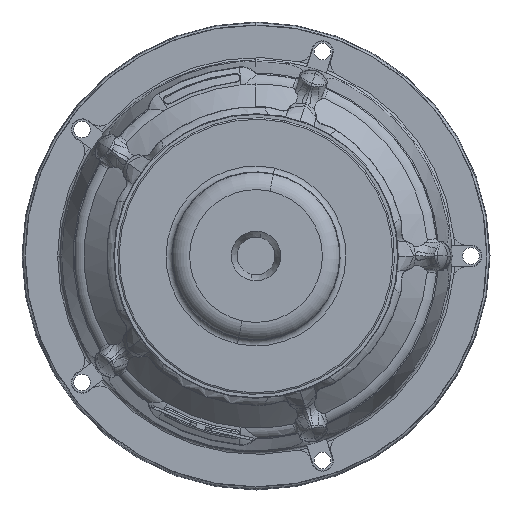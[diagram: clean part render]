
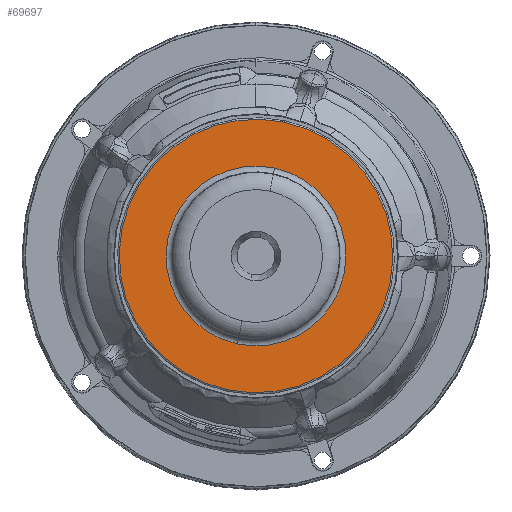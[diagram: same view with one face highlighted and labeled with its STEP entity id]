
A CAD part, front view. The second image highlights one B-rep face of the part: STEP entity #69697.
In plain terms, the highlighted planar face has unit normal (0, -1, 0).
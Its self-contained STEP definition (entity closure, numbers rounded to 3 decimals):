
#1073 = CIRCLE ( 'NONE', #62477, 28.425 ) ;
#1999 = AXIS2_PLACEMENT_3D ( 'NONE', #56514, #42863, #36889 ) ;
#2638 = CIRCLE ( 'NONE', #29986, 28.425 ) ;
#2693 = AXIS2_PLACEMENT_3D ( 'NONE', #58828, #52429, #52010 ) ;
#7824 = ORIENTED_EDGE ( 'NONE', *, *, #24896, .F. ) ;
#8827 = VERTEX_POINT ( 'NONE', #66209 ) ;
#13660 = CIRCLE ( 'NONE', #2693, 43.25 ) ;
#16712 = VERTEX_POINT ( 'NONE', #35196 ) ;
#22405 = CARTESIAN_POINT ( 'NONE',  ( 0., -28., 0. ) ) ;
#24896 = EDGE_CURVE ( 'NONE', #59871, #33404, #2638, .T. ) ;
#26084 = DIRECTION ( 'NONE',  ( -0.208, 0., -0.978 ) ) ;
#28898 = DIRECTION ( 'NONE',  ( -0.208, 0., -0.978 ) ) ;
#29986 = AXIS2_PLACEMENT_3D ( 'NONE', #81008, #75000, #28898 ) ;
#30928 = PLANE ( 'NONE',  #1999 ) ;
#32950 = EDGE_CURVE ( 'NONE', #16712, #8827, #61367, .T. ) ;
#33404 = VERTEX_POINT ( 'NONE', #84483 ) ;
#33769 = EDGE_LOOP ( 'NONE', ( #7824, #46946 ) ) ;
#35180 = DIRECTION ( 'NONE',  ( 0., -1., 0. ) ) ;
#35196 = CARTESIAN_POINT ( 'NONE',  ( 8.992, -28., 42.305 ) ) ;
#35469 = AXIS2_PLACEMENT_3D ( 'NONE', #22405, #35180, #73637 ) ;
#36889 = DIRECTION ( 'NONE',  ( -0.208, 0., -0.978 ) ) ;
#37310 = FACE_OUTER_BOUND ( 'NONE', #53843, .T. ) ;
#42863 = DIRECTION ( 'NONE',  ( 0., -1., 0. ) ) ;
#46797 = CARTESIAN_POINT ( 'NONE',  ( -5.91, -28., -27.804 ) ) ;
#46946 = ORIENTED_EDGE ( 'NONE', *, *, #74654, .F. ) ;
#47484 = EDGE_CURVE ( 'NONE', #8827, #16712, #13660, .T. ) ;
#47717 = ORIENTED_EDGE ( 'NONE', *, *, #32950, .T. ) ;
#50079 = FACE_BOUND ( 'NONE', #33769, .T. ) ;
#52010 = DIRECTION ( 'NONE',  ( -0.208, 0., -0.978 ) ) ;
#52429 = DIRECTION ( 'NONE',  ( 0., -1., 0. ) ) ;
#53843 = EDGE_LOOP ( 'NONE', ( #61721, #47717 ) ) ;
#56514 = CARTESIAN_POINT ( 'NONE',  ( 27.804, -28., -5.91 ) ) ;
#58828 = CARTESIAN_POINT ( 'NONE',  ( 0., -28., 0. ) ) ;
#59871 = VERTEX_POINT ( 'NONE', #46797 ) ;
#61367 = CIRCLE ( 'NONE', #35469, 43.25 ) ;
#61721 = ORIENTED_EDGE ( 'NONE', *, *, #47484, .T. ) ;
#62477 = AXIS2_PLACEMENT_3D ( 'NONE', #63642, #84609, #26084 ) ;
#63642 = CARTESIAN_POINT ( 'NONE',  ( 0., -28., 0. ) ) ;
#66209 = CARTESIAN_POINT ( 'NONE',  ( -8.992, -28., -42.305 ) ) ;
#69697 = ADVANCED_FACE ( 'NONE', ( #37310, #50079 ), #30928, .T. ) ;
#73637 = DIRECTION ( 'NONE',  ( -0.208, 0., -0.978 ) ) ;
#74654 = EDGE_CURVE ( 'NONE', #33404, #59871, #1073, .T. ) ;
#75000 = DIRECTION ( 'NONE',  ( 0., -1., 0. ) ) ;
#81008 = CARTESIAN_POINT ( 'NONE',  ( 0., -28., 0. ) ) ;
#84483 = CARTESIAN_POINT ( 'NONE',  ( 5.91, -28., 27.804 ) ) ;
#84609 = DIRECTION ( 'NONE',  ( 0., -1., 0. ) ) ;
